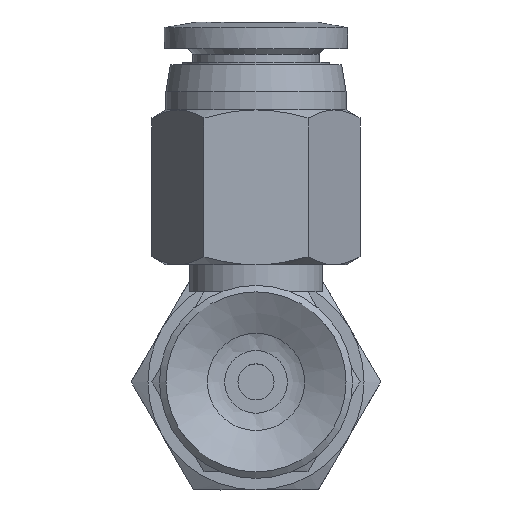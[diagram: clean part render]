
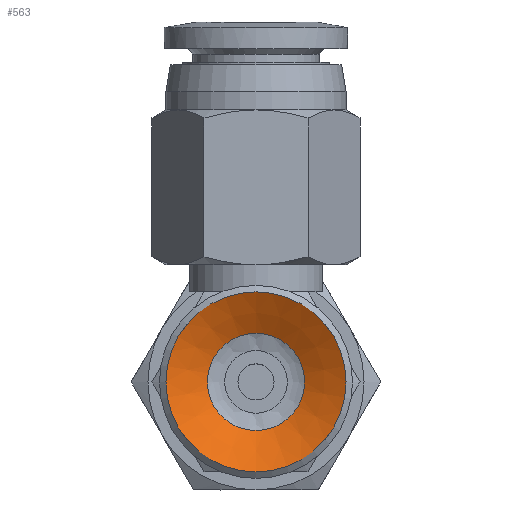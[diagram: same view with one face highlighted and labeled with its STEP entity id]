
A CAD part, front view. The second image highlights one B-rep face of the part: STEP entity #563.
In plain terms, the highlighted conical face has half-angle 61.39 degrees and reference radius 2.25 mm.
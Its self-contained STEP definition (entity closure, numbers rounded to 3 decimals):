
#563=ADVANCED_FACE('',(#885,#886),#887,.F.);
#885=FACE_BOUND('',#1296,.T.);
#886=FACE_OUTER_BOUND('',#1297,.T.);
#887=CONICAL_SURFACE('',#1298,2.25,1.071);
#1296=EDGE_LOOP('',(#2419));
#1297=EDGE_LOOP('',(#2420));
#1298=AXIS2_PLACEMENT_3D('',#2421,#2422,#2423);
#2419=ORIENTED_EDGE('',*,*,#2971,.T.);
#2420=ORIENTED_EDGE('',*,*,#2966,.T.);
#2421=CARTESIAN_POINT('',(0.0,1.5,0.0));
#2422=DIRECTION('',(-0.0,-1.0,0.));
#2423=DIRECTION('',(0.0,0.,-1.0));
#2966=EDGE_CURVE('',#3400,#3400,#3401,.T.);
#2971=EDGE_CURVE('',#3410,#3410,#3411,.T.);
#3400=VERTEX_POINT('',#4326);
#3401=CIRCLE('',#4327,5.);
#3410=VERTEX_POINT('',#4336);
#3411=CIRCLE('',#4337,2.698);
#4326=CARTESIAN_POINT('',(0.0,0.,-5.));
#4327=AXIS2_PLACEMENT_3D('',#5095,#5096,#5097);
#4336=CARTESIAN_POINT('',(0.0,1.256,-2.698));
#4337=AXIS2_PLACEMENT_3D('',#5110,#5111,#5112);
#5095=CARTESIAN_POINT('',(0.0,0.0,0.0));
#5096=DIRECTION('',(0.0,-1.0,0.));
#5097=DIRECTION('',(0.0,0.,-1.0));
#5110=CARTESIAN_POINT('',(0.0,1.256,0.0));
#5111=DIRECTION('',(0.0,1.0,0.));
#5112=DIRECTION('',(0.0,0.,-1.0));
